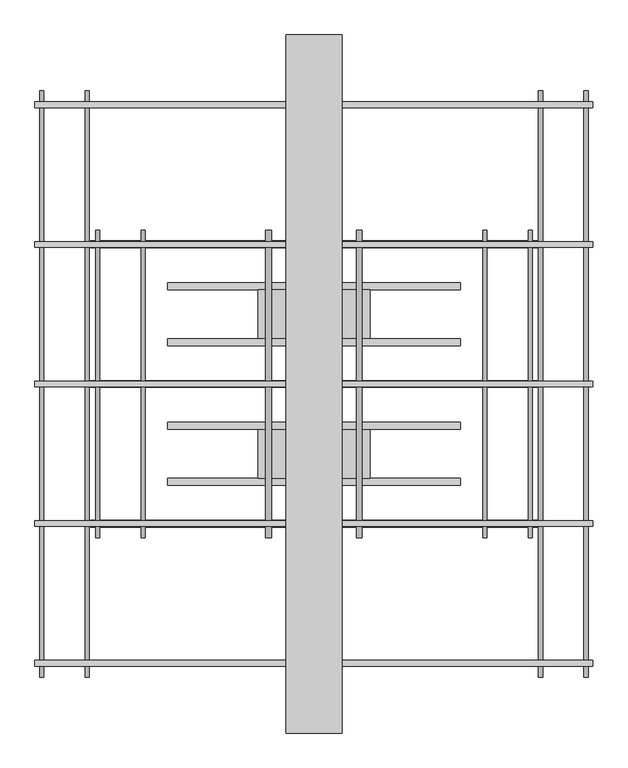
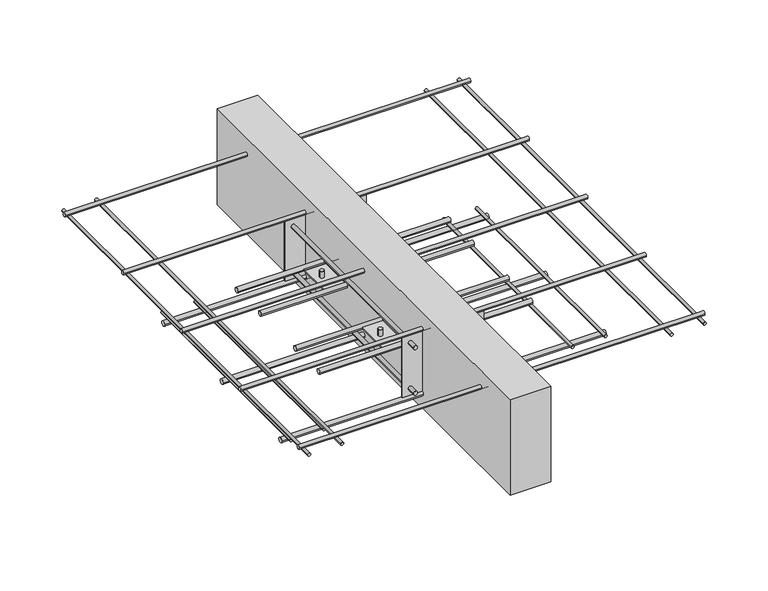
"""IFC4 building model written with IfcOpenShell, lengths in millimetres: proxy geometry, ACINOXplus_Typenreihe_K : KA+ S2."""

from ifc_helpers import new_model, si_unit, point, frame, frame_2d, origin, place, context, project, spatial, polyline, circle_curve, trimmed, segment, composite_curve, outline, extrude, source, transform, mapped, element, save
from ifc_brep_helpers import plane_surface, cylinder_surface, advanced_brep


def generic_models_14a9b0ae(model_context):
    return source(origin(), model_context, "Body", "SolidModel", [
        extrude(outline(composite_curve([segment(trimmed(circle_curve(frame_2d((-140.0, -100.5)), 5.0), [point((-145.0, -100.5))], [point((-135.0, -100.5))], False, "CARTESIAN"), True, "CONTINUOUS"), segment(trimmed(circle_curve(frame_2d((-140.0, -100.5)), 5.0), [point((-135.0, -100.5))], [point((-145.0, -100.5))], False, "CARTESIAN"), True, "CONTINUOUS")], self_intersect=False)), frame((-210.0, 0.0, 0.0), z_axis=(1.0, 0.0, 0.0), x_axis=(0.0, 1.0, 0.0)), (0.0, 0.0, 1.0), 420.0),
        extrude(outline(composite_curve([segment(trimmed(circle_curve(frame_2d((-60.0, -100.5)), 5.0), [point((-65.0, -100.5))], [point((-55.0, -100.5))], False, "CARTESIAN"), True, "CONTINUOUS"), segment(trimmed(circle_curve(frame_2d((-60.0, -100.5)), 5.0), [point((-55.0, -100.5))], [point((-65.0, -100.5))], False, "CARTESIAN"), True, "CONTINUOUS")], self_intersect=False)), frame((-210.0, 0.0, 0.0), z_axis=(1.0, 0.0, 0.0), x_axis=(0.0, 1.0, 0.0)), (0.0, 0.0, 1.0), 420.0),
        advanced_brep(
        [(-69.0, -100.0, -85.5), (-61.0, -100.0, -85.5), (61.0, -100.0, -85.5), (69.0, -100.0, -85.5), (-69.0, -100.0, -115.5), (-61.0, -100.0, -115.5), (61.0, -100.0, -115.5), (69.0, -100.0, -115.5), (-69.0, -100.0, -99.0), (-61.0, -100.0, -99.0), (-61.0, -100.0, -102.0), (-69.0, -100.0, -102.0), (61.0, -100.0, -99.0), (69.0, -100.0, -99.0), (69.0, -100.0, -102.0), (61.0, -100.0, -102.0), (80.0, -65.0, -99.0), (-80.0, -65.0, -99.0), (-80.0, -135.0, -99.0), (80.0, -135.0, -99.0), (80.0, -65.0, -102.0), (80.0, -135.0, -102.0), (-80.0, -135.0, -102.0), (-80.0, -65.0, -102.0)],
        [
            (0, 1, circle_curve(frame((-65.0, -100.0, -85.5), z_axis=(0.0, 0.0, 1.0), x_axis=(1.0, 0.0, 0.0)), 4.0)),
            (1, 0, circle_curve(frame((-65.0, -100.0, -85.5), z_axis=(0.0, 0.0, 1.0), x_axis=(1.0, 0.0, 0.0)), 4.0)),
            (2, 3, circle_curve(frame((65.0, -100.0, -85.5), z_axis=(0.0, 0.0, 1.0), x_axis=(1.0, 0.0, 0.0)), 4.0)),
            (3, 2, circle_curve(frame((65.0, -100.0, -85.5), z_axis=(0.0, 0.0, 1.0), x_axis=(1.0, 0.0, 0.0)), 4.0)),
            (4, 5, circle_curve(frame((-65.0, -100.0, -115.5), z_axis=(0.0, 0.0, -1.0), x_axis=(1.0, 0.0, 0.0)), 4.0)),
            (5, 4, circle_curve(frame((-65.0, -100.0, -115.5), z_axis=(0.0, 0.0, -1.0), x_axis=(1.0, 0.0, 0.0)), 4.0)),
            (6, 7, circle_curve(frame((65.0, -100.0, -115.5), z_axis=(0.0, 0.0, -1.0), x_axis=(1.0, 0.0, 0.0)), 4.0)),
            (7, 6, circle_curve(frame((65.0, -100.0, -115.5), z_axis=(0.0, 0.0, -1.0), x_axis=(1.0, 0.0, 0.0)), 4.0)),
            (0, 8),
            (8, 9, circle_curve(frame((-65.0, -100.0, -99.0), z_axis=(0.0, 0.0, 1.0), x_axis=(1.0, 0.0, 0.0)), 4.0)),
            (9, 1),
            (5, 10),
            (10, 11, circle_curve(frame((-65.0, -100.0, -102.0), z_axis=(0.0, 0.0, -1.0), x_axis=(1.0, 0.0, 0.0)), 4.0)),
            (11, 4),
            (9, 8, circle_curve(frame((-65.0, -100.0, -99.0), z_axis=(0.0, 0.0, 1.0), x_axis=(1.0, 0.0, 0.0)), 4.0)),
            (11, 10, circle_curve(frame((-65.0, -100.0, -102.0), z_axis=(0.0, 0.0, -1.0), x_axis=(1.0, 0.0, 0.0)), 4.0)),
            (2, 12),
            (12, 13, circle_curve(frame((65.0, -100.0, -99.0), z_axis=(0.0, 0.0, 1.0), x_axis=(1.0, 0.0, 0.0)), 4.0)),
            (13, 3),
            (7, 14),
            (14, 15, circle_curve(frame((65.0, -100.0, -102.0), z_axis=(0.0, 0.0, -1.0), x_axis=(1.0, 0.0, 0.0)), 4.0)),
            (15, 6),
            (13, 12, circle_curve(frame((65.0, -100.0, -99.0), z_axis=(0.0, 0.0, 1.0), x_axis=(1.0, 0.0, 0.0)), 4.0)),
            (15, 14, circle_curve(frame((65.0, -100.0, -102.0), z_axis=(0.0, 0.0, -1.0), x_axis=(1.0, 0.0, 0.0)), 4.0)),
            (16, 17),
            (17, 18),
            (18, 19),
            (19, 16),
            (20, 21),
            (21, 22),
            (22, 23),
            (23, 20),
            (16, 20),
            (23, 17),
            (22, 18),
            (21, 19),
        ],
        [
            plane_surface(frame((-61.0, -100.0, -85.5), z_axis=(0.0, 0.0, 1.0), x_axis=(0.0, 1.0, 0.0))),
            plane_surface(frame((-61.0, -100.0, -115.5), z_axis=(0.0, 0.0, -1.0), x_axis=(0.0, -1.0, 0.0))),
            cylinder_surface(frame((-65.0, -100.0, -115.5), z_axis=(0.0, 0.0, 1.0), x_axis=(1.0, 0.0, 0.0)), 4.0),
            cylinder_surface(frame((65.0, -100.0, -100.5), z_axis=(0.0, 0.0, 1.0), x_axis=(1.0, 0.0, 0.0)), 4.0),
            plane_surface(frame((-80.0, -65.0, -99.0), z_axis=(0.0, 0.0, 1.0), x_axis=(-1.0, 0.0, 0.0))),
            plane_surface(frame((-80.0, -65.0, -102.0), z_axis=(0.0, 0.0, -1.0), x_axis=(1.0, 0.0, 0.0))),
            plane_surface(frame((80.0, -65.0, -99.0), z_axis=(0.0, 1.0, 0.0), x_axis=(0.0, 0.0, -1.0))),
            plane_surface(frame((-80.0, -65.0, -99.0), z_axis=(-1.0, 0.0, 0.0), x_axis=(0.0, 0.0, -1.0))),
            plane_surface(frame((-80.0, -135.0, -99.0), z_axis=(0.0, -1.0, 0.0), x_axis=(0.0, 0.0, -1.0))),
            plane_surface(frame((80.0, -135.0, -99.0), z_axis=(1.0, 0.0, 0.0), x_axis=(0.0, 0.0, -1.0))),
        ],
        [
            (0, [[1, 2]]),
            (0, [[3, 4]]),
            (1, [[5, 6]]),
            (1, [[7, 8]]),
            (2, [[-1, 9, 10, 11]]),
            (2, [[-6, 12, 13, 14]]),
            (2, [[-2, -11, 15, -9]]),
            (2, [[-5, -14, 16, -12]]),
            (3, [[-3, 17, 18, 19]]),
            (3, [[-8, 20, 21, 22]]),
            (3, [[-4, -19, 23, -17]]),
            (3, [[-7, -22, 24, -20]]),
            (4, [[25, 26, 27, 28], [-10, -15], [-18, -23]]),
            (5, [[29, 30, 31, 32], [-13, -16], [-21, -24]]),
            (6, [[-25, 33, -32, 34]]),
            (7, [[-26, -34, -31, 35]]),
            (8, [[-27, -35, -30, 36]]),
            (9, [[-28, -36, -29, -33]]),
        ],
    ),
        extrude(outline(composite_curve([segment(trimmed(circle_curve(frame_2d((60.0, -100.5)), 5.0), [point((55.0, -100.5))], [point((65.0, -100.5))], False, "CARTESIAN"), True, "CONTINUOUS"), segment(trimmed(circle_curve(frame_2d((60.0, -100.5)), 5.0), [point((65.0, -100.5))], [point((55.0, -100.5))], False, "CARTESIAN"), True, "CONTINUOUS")], self_intersect=False)), frame((-210.0, 0.0, 0.0), z_axis=(1.0, 0.0, 0.0), x_axis=(0.0, 1.0, 0.0)), (0.0, 0.0, 1.0), 420.0),
        extrude(outline(composite_curve([segment(trimmed(circle_curve(frame_2d((140.0, -100.5)), 5.0), [point((135.0, -100.5))], [point((145.0, -100.5))], False, "CARTESIAN"), True, "CONTINUOUS"), segment(trimmed(circle_curve(frame_2d((140.0, -100.5)), 5.0), [point((145.0, -100.5))], [point((135.0, -100.5))], False, "CARTESIAN"), True, "CONTINUOUS")], self_intersect=False)), frame((-210.0, 0.0, 0.0), z_axis=(1.0, 0.0, 0.0), x_axis=(0.0, 1.0, 0.0)), (0.0, 0.0, 1.0), 420.0),
        advanced_brep(
        [(-69.0, 100.0, -85.5), (-61.0, 100.0, -85.5), (61.0, 100.0, -85.5), (69.0, 100.0, -85.5), (-69.0, 100.0, -115.5), (-61.0, 100.0, -115.5), (61.0, 100.0, -115.5), (69.0, 100.0, -115.5), (-69.0, 100.0, -99.0), (-61.0, 100.0, -99.0), (-61.0, 100.0, -102.0), (-69.0, 100.0, -102.0), (61.0, 100.0, -99.0), (69.0, 100.0, -99.0), (69.0, 100.0, -102.0), (61.0, 100.0, -102.0), (80.0, 135.0, -99.0), (-80.0, 135.0, -99.0), (-80.0, 65.0, -99.0), (80.0, 65.0, -99.0), (80.0, 135.0, -102.0), (80.0, 65.0, -102.0), (-80.0, 65.0, -102.0), (-80.0, 135.0, -102.0)],
        [
            (0, 1, circle_curve(frame((-65.0, 100.0, -85.5), z_axis=(0.0, 0.0, 1.0), x_axis=(1.0, 0.0, 0.0)), 4.0)),
            (1, 0, circle_curve(frame((-65.0, 100.0, -85.5), z_axis=(0.0, 0.0, 1.0), x_axis=(1.0, 0.0, 0.0)), 4.0)),
            (2, 3, circle_curve(frame((65.0, 100.0, -85.5), z_axis=(0.0, 0.0, 1.0), x_axis=(1.0, 0.0, 0.0)), 4.0)),
            (3, 2, circle_curve(frame((65.0, 100.0, -85.5), z_axis=(0.0, 0.0, 1.0), x_axis=(1.0, 0.0, 0.0)), 4.0)),
            (4, 5, circle_curve(frame((-65.0, 100.0, -115.5), z_axis=(0.0, 0.0, -1.0), x_axis=(1.0, 0.0, 0.0)), 4.0)),
            (5, 4, circle_curve(frame((-65.0, 100.0, -115.5), z_axis=(0.0, 0.0, -1.0), x_axis=(1.0, 0.0, 0.0)), 4.0)),
            (6, 7, circle_curve(frame((65.0, 100.0, -115.5), z_axis=(0.0, 0.0, -1.0), x_axis=(1.0, 0.0, 0.0)), 4.0)),
            (7, 6, circle_curve(frame((65.0, 100.0, -115.5), z_axis=(0.0, 0.0, -1.0), x_axis=(1.0, 0.0, 0.0)), 4.0)),
            (0, 8),
            (8, 9, circle_curve(frame((-65.0, 100.0, -99.0), z_axis=(0.0, 0.0, 1.0), x_axis=(1.0, 0.0, 0.0)), 4.0)),
            (9, 1),
            (5, 10),
            (10, 11, circle_curve(frame((-65.0, 100.0, -102.0), z_axis=(0.0, 0.0, -1.0), x_axis=(1.0, 0.0, 0.0)), 4.0)),
            (11, 4),
            (9, 8, circle_curve(frame((-65.0, 100.0, -99.0), z_axis=(0.0, 0.0, 1.0), x_axis=(1.0, 0.0, 0.0)), 4.0)),
            (11, 10, circle_curve(frame((-65.0, 100.0, -102.0), z_axis=(0.0, 0.0, -1.0), x_axis=(1.0, 0.0, 0.0)), 4.0)),
            (2, 12),
            (12, 13, circle_curve(frame((65.0, 100.0, -99.0), z_axis=(0.0, 0.0, 1.0), x_axis=(1.0, 0.0, 0.0)), 4.0)),
            (13, 3),
            (7, 14),
            (14, 15, circle_curve(frame((65.0, 100.0, -102.0), z_axis=(0.0, 0.0, -1.0), x_axis=(1.0, 0.0, 0.0)), 4.0)),
            (15, 6),
            (13, 12, circle_curve(frame((65.0, 100.0, -99.0), z_axis=(0.0, 0.0, 1.0), x_axis=(1.0, 0.0, 0.0)), 4.0)),
            (15, 14, circle_curve(frame((65.0, 100.0, -102.0), z_axis=(0.0, 0.0, -1.0), x_axis=(1.0, 0.0, 0.0)), 4.0)),
            (16, 17),
            (17, 18),
            (18, 19),
            (19, 16),
            (20, 21),
            (21, 22),
            (22, 23),
            (23, 20),
            (16, 20),
            (23, 17),
            (22, 18),
            (21, 19),
        ],
        [
            plane_surface(frame((-61.0, 100.0, -85.5), z_axis=(0.0, 0.0, 1.0), x_axis=(0.0, 1.0, 0.0))),
            plane_surface(frame((-61.0, 100.0, -115.5), z_axis=(0.0, 0.0, -1.0), x_axis=(0.0, -1.0, 0.0))),
            cylinder_surface(frame((-65.0, 100.0, -115.5), z_axis=(0.0, 0.0, 1.0), x_axis=(1.0, 0.0, 0.0)), 4.0),
            cylinder_surface(frame((65.0, 100.0, -100.5), z_axis=(0.0, 0.0, 1.0), x_axis=(1.0, 0.0, 0.0)), 4.0),
            plane_surface(frame((-80.0, 135.0, -99.0), z_axis=(0.0, 0.0, 1.0), x_axis=(-1.0, 0.0, 0.0))),
            plane_surface(frame((-80.0, 135.0, -102.0), z_axis=(0.0, 0.0, -1.0), x_axis=(1.0, 0.0, 0.0))),
            plane_surface(frame((80.0, 135.0, -99.0), z_axis=(0.0, 1.0, 0.0), x_axis=(0.0, 0.0, -1.0))),
            plane_surface(frame((-80.0, 135.0, -99.0), z_axis=(-1.0, 0.0, 0.0), x_axis=(0.0, 0.0, -1.0))),
            plane_surface(frame((-80.0, 65.0, -99.0), z_axis=(0.0, -1.0, 0.0), x_axis=(0.0, 0.0, -1.0))),
            plane_surface(frame((80.0, 65.0, -99.0), z_axis=(1.0, 0.0, 0.0), x_axis=(0.0, 0.0, -1.0))),
        ],
        [
            (0, [[1, 2]]),
            (0, [[3, 4]]),
            (1, [[5, 6]]),
            (1, [[7, 8]]),
            (2, [[-1, 9, 10, 11]]),
            (2, [[-6, 12, 13, 14]]),
            (2, [[-2, -11, 15, -9]]),
            (2, [[-5, -14, 16, -12]]),
            (3, [[-3, 17, 18, 19]]),
            (3, [[-8, 20, 21, 22]]),
            (3, [[-4, -19, 23, -17]]),
            (3, [[-7, -22, 24, -20]]),
            (4, [[25, 26, 27, 28], [-10, -15], [-18, -23]]),
            (5, [[29, 30, 31, 32], [-13, -16], [-21, -24]]),
            (6, [[-25, 33, -32, 34]]),
            (7, [[-26, -34, -31, 35]]),
            (8, [[-27, -35, -30, 36]]),
            (9, [[-28, -36, -29, -33]]),
        ],
    ),
        extrude(outline(polyline([(40.0, 500.0), (40.0, -500.0), (-40.0, -500.0), (-40.0, 500.0), (40.0, 500.0)])), frame((0.0, 0.0, -200.0), z_axis=(0.0, 0.0, 1.0), x_axis=(1.0, 0.0, 0.0)), (0.0, 0.0, 1.0), 200.0),
        extrude(outline(polyline([(80.0, -198.5), (80.0, -201.5), (-80.0, -201.5), (-80.0, -198.5), (80.0, -198.5)])), frame((0.0, 0.0, -163.0), z_axis=(0.0, 0.0, 1.0), x_axis=(1.0, 0.0, 0.0)), (0.0, 0.0, 1.0), 125.0),
        extrude(outline(polyline([(80.0, 201.5), (80.0, 198.5), (-80.0, 198.5), (-80.0, 201.5), (80.0, 201.5)])), frame((0.0, 0.0, -163.0), z_axis=(0.0, 0.0, 1.0), x_axis=(1.0, 0.0, 0.0)), (0.0, 0.0, 1.0), 125.0),
        extrude(outline(composite_curve([segment(trimmed(circle_curve(frame_2d((-148.0, -65.0)), 4.0), [point((-148.0, -69.0))], [point((-148.0, -61.0))], False, "CARTESIAN"), True, "CONTINUOUS"), segment(trimmed(circle_curve(frame_2d((-148.0, -65.0)), 4.0), [point((-148.0, -61.0))], [point((-148.0, -69.0))], False, "CARTESIAN"), True, "CONTINUOUS")], self_intersect=False)), frame((0.0, 201.5, 0.0), z_axis=(0.0, 1.0, 0.0), x_axis=(0.0, 0.0, 1.0)), (0.0, 0.0, 1.0), 18.5),
        extrude(outline(composite_curve([segment(trimmed(circle_curve(frame_2d((-148.0, -65.0)), 4.0), [point((-148.0, -61.0))], [point((-148.0, -69.0))], False, "CARTESIAN"), True, "CONTINUOUS"), segment(trimmed(circle_curve(frame_2d((-148.0, -65.0)), 4.0), [point((-148.0, -69.0))], [point((-148.0, -61.0))], False, "CARTESIAN"), True, "CONTINUOUS")], self_intersect=False)), frame((0.0, -220.0, 0.0), z_axis=(0.0, 1.0, 0.0), x_axis=(0.0, 0.0, 1.0)), (0.0, 0.0, 1.0), 18.5),
        extrude(outline(composite_curve([segment(trimmed(circle_curve(frame_2d((-148.0, -65.0)), 4.0), [point((-148.0, -69.0))], [point((-148.0, -61.0))], False, "CARTESIAN"), True, "CONTINUOUS"), segment(trimmed(circle_curve(frame_2d((-148.0, -65.0)), 4.0), [point((-148.0, -61.0))], [point((-148.0, -69.0))], False, "CARTESIAN"), True, "CONTINUOUS")], self_intersect=False)), frame((0.0, -198.5, 0.0), z_axis=(0.0, 1.0, 0.0), x_axis=(0.0, 0.0, 1.0)), (0.0, 0.0, 1.0), 397.0),
        extrude(outline(composite_curve([segment(trimmed(circle_curve(frame_2d((-148.0, 65.0)), 4.0), [point((-148.0, 61.0))], [point((-148.0, 69.0))], False, "CARTESIAN"), True, "CONTINUOUS"), segment(trimmed(circle_curve(frame_2d((-148.0, 65.0)), 4.0), [point((-148.0, 69.0))], [point((-148.0, 61.0))], False, "CARTESIAN"), True, "CONTINUOUS")], self_intersect=False)), frame((0.0, 201.5, 0.0), z_axis=(0.0, 1.0, 0.0), x_axis=(0.0, 0.0, 1.0)), (0.0, 0.0, 1.0), 18.5),
        extrude(outline(composite_curve([segment(trimmed(circle_curve(frame_2d((-148.0, 65.0)), 4.0), [point((-148.0, 69.0))], [point((-148.0, 61.0))], False, "CARTESIAN"), True, "CONTINUOUS"), segment(trimmed(circle_curve(frame_2d((-148.0, 65.0)), 4.0), [point((-148.0, 61.0))], [point((-148.0, 69.0))], False, "CARTESIAN"), True, "CONTINUOUS")], self_intersect=False)), frame((0.0, -220.0, 0.0), z_axis=(0.0, 1.0, 0.0), x_axis=(0.0, 0.0, 1.0)), (0.0, 0.0, 1.0), 18.5),
        extrude(outline(composite_curve([segment(trimmed(circle_curve(frame_2d((-148.0, 65.0)), 4.0), [point((-148.0, 61.0))], [point((-148.0, 69.0))], False, "CARTESIAN"), True, "CONTINUOUS"), segment(trimmed(circle_curve(frame_2d((-148.0, 65.0)), 4.0), [point((-148.0, 69.0))], [point((-148.0, 61.0))], False, "CARTESIAN"), True, "CONTINUOUS")], self_intersect=False)), frame((0.0, -198.5, 0.0), z_axis=(0.0, 1.0, 0.0), x_axis=(0.0, 0.0, 1.0)), (0.0, 0.0, 1.0), 397.0),
        extrude(outline(composite_curve([segment(trimmed(circle_curve(frame_2d((-53.0, -65.0)), 4.0), [point((-53.0, -69.0))], [point((-53.0, -61.0))], False, "CARTESIAN"), True, "CONTINUOUS"), segment(trimmed(circle_curve(frame_2d((-53.0, -65.0)), 4.0), [point((-53.0, -61.0))], [point((-53.0, -69.0))], False, "CARTESIAN"), True, "CONTINUOUS")], self_intersect=False)), frame((0.0, 201.5, 0.0), z_axis=(0.0, 1.0, 0.0), x_axis=(0.0, 0.0, 1.0)), (0.0, 0.0, 1.0), 18.5),
        extrude(outline(composite_curve([segment(trimmed(circle_curve(frame_2d((-53.0, -65.0)), 4.0), [point((-53.0, -61.0))], [point((-53.0, -69.0))], False, "CARTESIAN"), True, "CONTINUOUS"), segment(trimmed(circle_curve(frame_2d((-53.0, -65.0)), 4.0), [point((-53.0, -69.0))], [point((-53.0, -61.0))], False, "CARTESIAN"), True, "CONTINUOUS")], self_intersect=False)), frame((0.0, -220.0, 0.0), z_axis=(0.0, 1.0, 0.0), x_axis=(0.0, 0.0, 1.0)), (0.0, 0.0, 1.0), 18.5),
        extrude(outline(composite_curve([segment(trimmed(circle_curve(frame_2d((-53.0, -65.0)), 4.0), [point((-53.0, -69.0))], [point((-53.0, -61.0))], False, "CARTESIAN"), True, "CONTINUOUS"), segment(trimmed(circle_curve(frame_2d((-53.0, -65.0)), 4.0), [point((-53.0, -61.0))], [point((-53.0, -69.0))], False, "CARTESIAN"), True, "CONTINUOUS")], self_intersect=False)), frame((0.0, -198.5, 0.0), z_axis=(0.0, 1.0, 0.0), x_axis=(0.0, 0.0, 1.0)), (0.0, 0.0, 1.0), 397.0),
        extrude(outline(composite_curve([segment(trimmed(circle_curve(frame_2d((-53.0, 65.0)), 4.0), [point((-53.0, 61.0))], [point((-53.0, 69.0))], False, "CARTESIAN"), True, "CONTINUOUS"), segment(trimmed(circle_curve(frame_2d((-53.0, 65.0)), 4.0), [point((-53.0, 69.0))], [point((-53.0, 61.0))], False, "CARTESIAN"), True, "CONTINUOUS")], self_intersect=False)), frame((0.0, 201.5, 0.0), z_axis=(0.0, 1.0, 0.0), x_axis=(0.0, 0.0, 1.0)), (0.0, 0.0, 1.0), 18.5),
        extrude(outline(composite_curve([segment(trimmed(circle_curve(frame_2d((-53.0, 65.0)), 4.0), [point((-53.0, 69.0))], [point((-53.0, 61.0))], False, "CARTESIAN"), True, "CONTINUOUS"), segment(trimmed(circle_curve(frame_2d((-53.0, 65.0)), 4.0), [point((-53.0, 61.0))], [point((-53.0, 69.0))], False, "CARTESIAN"), True, "CONTINUOUS")], self_intersect=False)), frame((0.0, -220.0, 0.0), z_axis=(0.0, 1.0, 0.0), x_axis=(0.0, 0.0, 1.0)), (0.0, 0.0, 1.0), 18.5),
        extrude(outline(composite_curve([segment(trimmed(circle_curve(frame_2d((-53.0, 65.0)), 4.0), [point((-53.0, 61.0))], [point((-53.0, 69.0))], False, "CARTESIAN"), True, "CONTINUOUS"), segment(trimmed(circle_curve(frame_2d((-53.0, 65.0)), 4.0), [point((-53.0, 69.0))], [point((-53.0, 61.0))], False, "CARTESIAN"), True, "CONTINUOUS")], self_intersect=False)), frame((0.0, -198.5, 0.0), z_axis=(0.0, 1.0, 0.0), x_axis=(0.0, 0.0, 1.0)), (0.0, 0.0, 1.0), 397.0),
        extrude(outline(composite_curve([segment(trimmed(circle_curve(frame_2d((0.0, -168.0)), 5.0), [point((-5.0, -168.0))], [point((5.0, -168.0))], False, "CARTESIAN"), True, "CONTINUOUS"), segment(trimmed(circle_curve(frame_2d((0.0, -168.0)), 5.0), [point((5.0, -168.0))], [point((-5.0, -168.0))], False, "CARTESIAN"), True, "CONTINUOUS")], self_intersect=False)), frame((-320.0, 0.0, 0.0), z_axis=(1.0, 0.0, 0.0), x_axis=(0.0, 1.0, 0.0)), (0.0, 0.0, 1.0), 640.0),
        extrude(outline(composite_curve([segment(trimmed(circle_curve(frame_2d((200.0, -168.0)), 5.0), [point((195.0, -168.0))], [point((205.0, -168.0))], False, "CARTESIAN"), True, "CONTINUOUS"), segment(trimmed(circle_curve(frame_2d((200.0, -168.0)), 5.0), [point((205.0, -168.0))], [point((195.0, -168.0))], False, "CARTESIAN"), True, "CONTINUOUS")], self_intersect=False)), frame((-320.0, 0.0, 0.0), z_axis=(1.0, 0.0, 0.0), x_axis=(0.0, 1.0, 0.0)), (0.0, 0.0, 1.0), 640.0),
        extrude(outline(composite_curve([segment(trimmed(circle_curve(frame_2d((-200.0, -168.0)), 5.0), [point((-205.0, -168.0))], [point((-195.0, -168.0))], False, "CARTESIAN"), True, "CONTINUOUS"), segment(trimmed(circle_curve(frame_2d((-200.0, -168.0)), 5.0), [point((-195.0, -168.0))], [point((-205.0, -168.0))], False, "CARTESIAN"), True, "CONTINUOUS")], self_intersect=False)), frame((-320.0, 0.0, 0.0), z_axis=(1.0, 0.0, 0.0), x_axis=(0.0, 1.0, 0.0)), (0.0, 0.0, 1.0), 640.0),
        extrude(outline(composite_curve([segment(trimmed(circle_curve(frame_2d((0.0, -34.0)), 4.0), [point((-4.0, -34.0))], [point((4.0, -34.0))], False, "CARTESIAN"), True, "CONTINUOUS"), segment(trimmed(circle_curve(frame_2d((0.0, -34.0)), 4.0), [point((4.0, -34.0))], [point((-4.0, -34.0))], False, "CARTESIAN"), True, "CONTINUOUS")], self_intersect=False)), frame((-400.0, 0.0, 0.0), z_axis=(1.0, 0.0, 0.0), x_axis=(0.0, 1.0, 0.0)), (0.0, 0.0, 1.0), 800.0),
        extrude(outline(composite_curve([segment(trimmed(circle_curve(frame_2d((200.0, -34.0)), 4.0), [point((196.0, -34.0))], [point((204.0, -34.0))], False, "CARTESIAN"), True, "CONTINUOUS"), segment(trimmed(circle_curve(frame_2d((200.0, -34.0)), 4.0), [point((204.0, -34.0))], [point((196.0, -34.0))], False, "CARTESIAN"), True, "CONTINUOUS")], self_intersect=False)), frame((-400.0, 0.0, 0.0), z_axis=(1.0, 0.0, 0.0), x_axis=(0.0, 1.0, 0.0)), (0.0, 0.0, 1.0), 800.0),
        extrude(outline(composite_curve([segment(trimmed(circle_curve(frame_2d((400.0, -34.0)), 4.0), [point((396.0, -34.0))], [point((404.0, -34.0))], False, "CARTESIAN"), True, "CONTINUOUS"), segment(trimmed(circle_curve(frame_2d((400.0, -34.0)), 4.0), [point((404.0, -34.0))], [point((396.0, -34.0))], False, "CARTESIAN"), True, "CONTINUOUS")], self_intersect=False)), frame((-400.0, 0.0, 0.0), z_axis=(1.0, 0.0, 0.0), x_axis=(0.0, 1.0, 0.0)), (0.0, 0.0, 1.0), 800.0),
        extrude(outline(composite_curve([segment(trimmed(circle_curve(frame_2d((-200.0, -34.0)), 4.0), [point((-204.0, -34.0))], [point((-196.0, -34.0))], False, "CARTESIAN"), True, "CONTINUOUS"), segment(trimmed(circle_curve(frame_2d((-200.0, -34.0)), 4.0), [point((-196.0, -34.0))], [point((-204.0, -34.0))], False, "CARTESIAN"), True, "CONTINUOUS")], self_intersect=False)), frame((-400.0, 0.0, 0.0), z_axis=(1.0, 0.0, 0.0), x_axis=(0.0, 1.0, 0.0)), (0.0, 0.0, 1.0), 800.0),
        extrude(outline(composite_curve([segment(trimmed(circle_curve(frame_2d((-400.0, -34.0)), 4.0), [point((-404.0, -34.0))], [point((-396.0, -34.0))], False, "CARTESIAN"), True, "CONTINUOUS"), segment(trimmed(circle_curve(frame_2d((-400.0, -34.0)), 4.0), [point((-396.0, -34.0))], [point((-404.0, -34.0))], False, "CARTESIAN"), True, "CONTINUOUS")], self_intersect=False)), frame((-400.0, 0.0, 0.0), z_axis=(1.0, 0.0, 0.0), x_axis=(0.0, 1.0, 0.0)), (0.0, 0.0, 1.0), 800.0),
        extrude(outline(composite_curve([segment(trimmed(circle_curve(frame_2d((-160.0, -310.0)), 3.0), [point((-160.0, -307.0))], [point((-160.0, -313.0))], False, "CARTESIAN"), True, "CONTINUOUS"), segment(trimmed(circle_curve(frame_2d((-160.0, -310.0)), 3.0), [point((-160.0, -313.0))], [point((-160.0, -307.0))], False, "CARTESIAN"), True, "CONTINUOUS")], self_intersect=False)), frame((0.0, -220.0, 0.0), z_axis=(0.0, 1.0, 0.0), x_axis=(0.0, 0.0, 1.0)), (0.0, 0.0, 1.0), 440.0),
        extrude(outline(composite_curve([segment(trimmed(circle_curve(frame_2d((-160.0, -245.0)), 3.0), [point((-160.0, -242.0))], [point((-160.0, -248.0))], False, "CARTESIAN"), True, "CONTINUOUS"), segment(trimmed(circle_curve(frame_2d((-160.0, -245.0)), 3.0), [point((-160.0, -248.0))], [point((-160.0, -242.0))], False, "CARTESIAN"), True, "CONTINUOUS")], self_intersect=False)), frame((0.0, -220.0, 0.0), z_axis=(0.0, 1.0, 0.0), x_axis=(0.0, 0.0, 1.0)), (0.0, 0.0, 1.0), 440.0),
        extrude(outline(composite_curve([segment(trimmed(circle_curve(frame_2d((-160.0, 245.0)), 3.0), [point((-160.0, 248.0))], [point((-160.0, 242.0))], False, "CARTESIAN"), True, "CONTINUOUS"), segment(trimmed(circle_curve(frame_2d((-160.0, 245.0)), 3.0), [point((-160.0, 242.0))], [point((-160.0, 248.0))], False, "CARTESIAN"), True, "CONTINUOUS")], self_intersect=False)), frame((0.0, -220.0, 0.0), z_axis=(0.0, 1.0, 0.0), x_axis=(0.0, 0.0, 1.0)), (0.0, 0.0, 1.0), 440.0),
        extrude(outline(composite_curve([segment(trimmed(circle_curve(frame_2d((-160.0, 310.0)), 3.0), [point((-160.0, 313.0))], [point((-160.0, 307.0))], False, "CARTESIAN"), True, "CONTINUOUS"), segment(trimmed(circle_curve(frame_2d((-160.0, 310.0)), 3.0), [point((-160.0, 307.0))], [point((-160.0, 313.0))], False, "CARTESIAN"), True, "CONTINUOUS")], self_intersect=False)), frame((0.0, -220.0, 0.0), z_axis=(0.0, 1.0, 0.0), x_axis=(0.0, 0.0, 1.0)), (0.0, 0.0, 1.0), 440.0),
        extrude(outline(composite_curve([segment(trimmed(circle_curve(frame_2d((-41.0, 325.0)), 3.0), [point((-41.0, 328.0))], [point((-41.0, 322.0))], False, "CARTESIAN"), True, "CONTINUOUS"), segment(trimmed(circle_curve(frame_2d((-41.0, 325.0)), 3.0), [point((-41.0, 322.0))], [point((-41.0, 328.0))], False, "CARTESIAN"), True, "CONTINUOUS")], self_intersect=False)), frame((0.0, -420.0, 0.0), z_axis=(0.0, 1.0, 0.0), x_axis=(0.0, 0.0, 1.0)), (0.0, 0.0, 1.0), 840.0),
        extrude(outline(composite_curve([segment(trimmed(circle_curve(frame_2d((-41.0, 390.0)), 3.0), [point((-41.0, 393.0))], [point((-41.0, 387.0))], False, "CARTESIAN"), True, "CONTINUOUS"), segment(trimmed(circle_curve(frame_2d((-41.0, 390.0)), 3.0), [point((-41.0, 387.0))], [point((-41.0, 393.0))], False, "CARTESIAN"), True, "CONTINUOUS")], self_intersect=False)), frame((0.0, -420.0, 0.0), z_axis=(0.0, 1.0, 0.0), x_axis=(0.0, 0.0, 1.0)), (0.0, 0.0, 1.0), 840.0),
        extrude(outline(composite_curve([segment(trimmed(circle_curve(frame_2d((-41.0, -390.0)), 3.0), [point((-41.0, -387.0))], [point((-41.0, -393.0))], False, "CARTESIAN"), True, "CONTINUOUS"), segment(trimmed(circle_curve(frame_2d((-41.0, -390.0)), 3.0), [point((-41.0, -393.0))], [point((-41.0, -387.0))], False, "CARTESIAN"), True, "CONTINUOUS")], self_intersect=False)), frame((0.0, -420.0, 0.0), z_axis=(0.0, 1.0, 0.0), x_axis=(0.0, 0.0, 1.0)), (0.0, 0.0, 1.0), 840.0),
        extrude(outline(composite_curve([segment(trimmed(circle_curve(frame_2d((-41.0, -325.0)), 3.0), [point((-41.0, -322.0))], [point((-41.0, -328.0))], False, "CARTESIAN"), True, "CONTINUOUS"), segment(trimmed(circle_curve(frame_2d((-41.0, -325.0)), 3.0), [point((-41.0, -328.0))], [point((-41.0, -322.0))], False, "CARTESIAN"), True, "CONTINUOUS")], self_intersect=False)), frame((0.0, -420.0, 0.0), z_axis=(0.0, 1.0, 0.0), x_axis=(0.0, 0.0, 1.0)), (0.0, 0.0, 1.0), 840.0),
    ])


if __name__ == "__main__":
    model = new_model("IFC4")
    model_context = context("Model", 3, world=origin())
    ifc_project = project(units=[si_unit("LENGTHUNIT", "METRE", prefix="MILLI")], contexts=[model_context])
    site = spatial("IfcSite", under=ifc_project)
    building = spatial("IfcBuilding", under=site)
    placement = place(None, origin())
    generic_models_shape = generic_models_14a9b0ae(model_context)
    element("IfcBuildingElementProxy", 1, Name="ACINOXplus_Typenreihe_K : KA+ S2", ObjectType="ACINOXplus_Typenreihe_K : KA+ S2", at=placement, inside=building, context=model_context, shape_type="MappedRepresentation", body=[
        mapped(generic_models_shape, transform((0.0, 0.0, 0.0), x_axis=(1.0, 0.0, 0.0), y_axis=(0.0, 1.0, 0.0), z_axis=(0.0, 0.0, 1.0))),
    ])
    save(model, "model.ifc")
